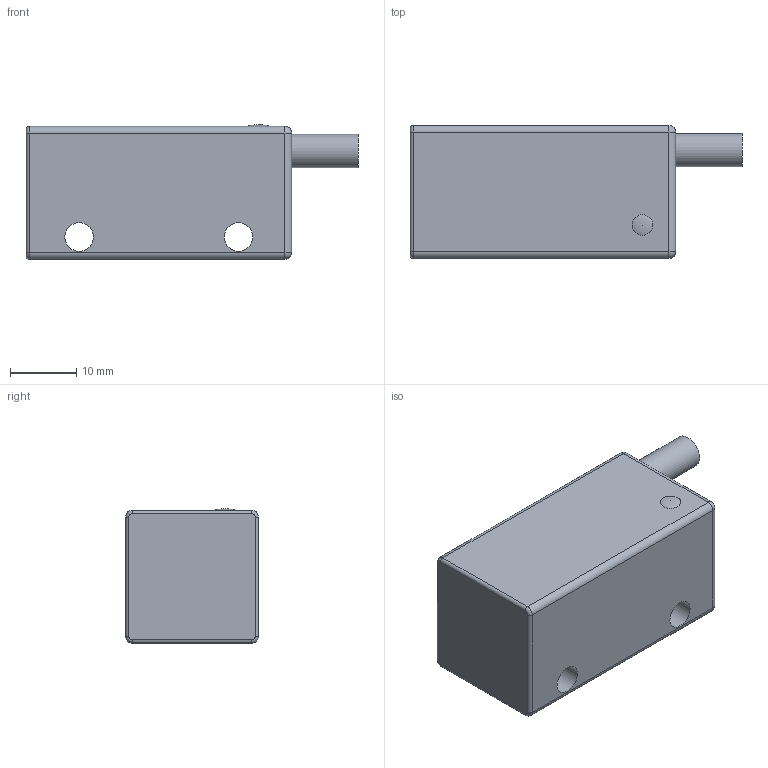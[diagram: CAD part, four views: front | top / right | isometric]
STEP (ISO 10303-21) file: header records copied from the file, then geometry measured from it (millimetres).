
FILE_DESCRIPTION(/* description */ (''),/* implementation_level */ '2;1');
FILE_NAME(/* name */ 'HNSC-C-HP20.step',/* time_stamp */ '2024-10-08T15:01:06+02:00',/* author */ (''),/* organization */ (''),/* preprocessor_version */ 'ST-DEVELOPER v20',/* originating_system */ 'Autodesk Translation Framework v13.20.0.188',/* authorisation */ '');
FILE_SCHEMA (('AUTOMOTIVE_DESIGN { 1 0 10303 214 3 1 1 }'));
Length unit declared in the file: millimetre
Products named in the file (2): Kombigehäuse z=20 und z=24; VergossenerSchalter
Assembly tree (1 placements, depth 2):
  Kombigehäuse z=20 und z=24
    VergossenerSchalter
Bounding box: 50 x 20 x 20.25 mm (x, y, z)
Volume: 15561.7 mm3; surface area: 4518.5 mm2
Topology: 1 solids, 1 shells, 31 faces, 64 edges, 36 vertices
Faces by surface type: cylinder 15, plane 7, bspline 5, sphere 4
Full cylindrical faces by diameter (mm): 4.3 x2, 5 x1
Entity records: 957 total; most frequent: CARTESIAN_POINT 191, DIRECTION 157, ORIENTED_EDGE 126, AXIS2_PLACEMENT_3D 65, EDGE_CURVE 63, EDGE_LOOP 37, VERTEX_POINT 36, CIRCLE 35
